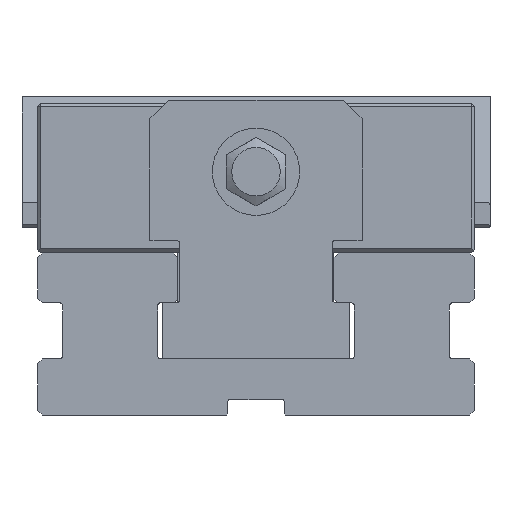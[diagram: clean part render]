
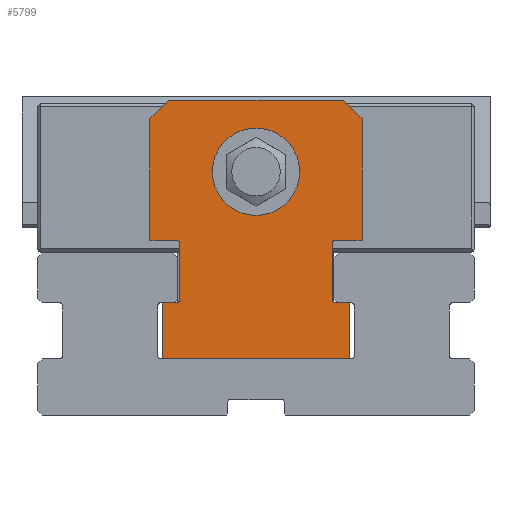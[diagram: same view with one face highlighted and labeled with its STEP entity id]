
A CAD part, front view. The second image highlights one B-rep face of the part: STEP entity #5799.
In plain terms, the highlighted planar face has unit normal (0, -1, 0).
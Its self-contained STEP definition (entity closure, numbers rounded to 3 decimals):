
#5586=CARTESIAN_POINT('',(0.,-343.49,64.006));
#5587=VERTEX_POINT('',#5586);
#5588=CARTESIAN_POINT('',(0.,-343.49,78.));
#5589=DIRECTION('',(0.0,-1.0,0.0));
#5590=DIRECTION('',(0.0,0.0,-1.0));
#5591=AXIS2_PLACEMENT_3D('',#5588,#5589,#5590);
#5592=CIRCLE('',#5591,13.994);
#5593=EDGE_CURVE('',#5587,#5587,#5592,.T.);
#5601=CARTESIAN_POINT('',(-37.4,-343.49,13.85));
#5602=DIRECTION('',(0.0,-1.0,0.0));
#5603=DIRECTION('',(1.0,0.0,0.0));
#5604=AXIS2_PLACEMENT_3D('',#5601,#5602,#5603);
#5605=PLANE('',#5604);
#5606=CARTESIAN_POINT('',(-25.117,-343.49,36.076));
#5607=VERTEX_POINT('',#5606);
#5608=CARTESIAN_POINT('',(-25.5,-343.49,36.));
#5609=VERTEX_POINT('',#5608);
#5610=CARTESIAN_POINT('',(-41.185,-343.49,32.88));
#5611=DIRECTION('',(-0.981,0.0,-0.195));
#5612=VECTOR('',#5611,1.);
#5613=LINE('',#5610,#5612);
#5614=EDGE_CURVE('',#5607,#5609,#5613,.T.);
#5615=ORIENTED_EDGE('',*,*,#5614,.T.);
#5616=CARTESIAN_POINT('',(-30.,-343.49,36.));
#5617=VERTEX_POINT('',#5616);
#5618=CARTESIAN_POINT('',(0.,-343.49,36.));
#5619=DIRECTION('',(-1.0,0.0,0.0));
#5620=VECTOR('',#5619,1.0);
#5621=LINE('',#5618,#5620);
#5622=EDGE_CURVE('',#5609,#5617,#5621,.T.);
#5623=ORIENTED_EDGE('',*,*,#5622,.T.);
#5624=CARTESIAN_POINT('',(-30.,-343.49,18.));
#5625=VERTEX_POINT('',#5624);
#5626=CARTESIAN_POINT('',(-30.,-343.49,59.5));
#5627=DIRECTION('',(0.0,0.0,-1.0));
#5628=VECTOR('',#5627,1.0);
#5629=LINE('',#5626,#5628);
#5630=EDGE_CURVE('',#5617,#5625,#5629,.T.);
#5631=ORIENTED_EDGE('',*,*,#5630,.T.);
#5632=CARTESIAN_POINT('',(30.,-343.49,18.));
#5633=VERTEX_POINT('',#5632);
#5634=CARTESIAN_POINT('',(0.,-343.49,18.));
#5635=DIRECTION('',(1.0,0.0,0.0));
#5636=VECTOR('',#5635,1.0);
#5637=LINE('',#5634,#5636);
#5638=EDGE_CURVE('',#5625,#5633,#5637,.T.);
#5639=ORIENTED_EDGE('',*,*,#5638,.T.);
#5640=CARTESIAN_POINT('',(30.,-343.49,36.));
#5641=VERTEX_POINT('',#5640);
#5642=CARTESIAN_POINT('',(30.,-343.49,59.5));
#5643=DIRECTION('',(0.0,0.0,1.0));
#5644=VECTOR('',#5643,1.0);
#5645=LINE('',#5642,#5644);
#5646=EDGE_CURVE('',#5633,#5641,#5645,.T.);
#5647=ORIENTED_EDGE('',*,*,#5646,.T.);
#5648=CARTESIAN_POINT('',(25.5,-343.49,36.));
#5649=VERTEX_POINT('',#5648);
#5650=CARTESIAN_POINT('',(0.,-343.49,36.));
#5651=DIRECTION('',(-1.0,0.0,0.0));
#5652=VECTOR('',#5651,1.0);
#5653=LINE('',#5650,#5652);
#5654=EDGE_CURVE('',#5641,#5649,#5653,.T.);
#5655=ORIENTED_EDGE('',*,*,#5654,.T.);
#5656=CARTESIAN_POINT('',(25.124,-343.49,36.074));
#5657=VERTEX_POINT('',#5656);
#5658=CARTESIAN_POINT('',(-30.922,-343.49,47.02));
#5659=DIRECTION('',(-0.981,0.0,0.192));
#5660=VECTOR('',#5659,1.);
#5661=LINE('',#5658,#5660);
#5662=EDGE_CURVE('',#5649,#5657,#5661,.T.);
#5663=ORIENTED_EDGE('',*,*,#5662,.T.);
#5664=CARTESIAN_POINT('',(24.796,-343.49,36.29));
#5665=VERTEX_POINT('',#5664);
#5666=CARTESIAN_POINT('',(-8.18,-343.49,58.077));
#5667=DIRECTION('',(-0.834,0.0,0.551));
#5668=VECTOR('',#5667,1.);
#5669=LINE('',#5666,#5668);
#5670=EDGE_CURVE('',#5657,#5665,#5669,.T.);
#5671=ORIENTED_EDGE('',*,*,#5670,.T.);
#5672=CARTESIAN_POINT('',(24.5,-343.49,37.009));
#5673=VERTEX_POINT('',#5672);
#5674=CARTESIAN_POINT('',(25.521,-343.49,37.009));
#5675=DIRECTION('',(0.0,-1.0,0.0));
#5676=DIRECTION('',(0.0,0.0,-1.0));
#5677=AXIS2_PLACEMENT_3D('',#5674,#5675,#5676);
#5678=CIRCLE('',#5677,1.021);
#5679=EDGE_CURVE('',#5665,#5673,#5678,.F.);
#5680=ORIENTED_EDGE('',*,*,#5679,.T.);
#5681=CARTESIAN_POINT('',(24.5,-343.49,55.));
#5682=VERTEX_POINT('',#5681);
#5683=CARTESIAN_POINT('',(24.5,-343.49,59.5));
#5684=DIRECTION('',(0.0,0.0,1.0));
#5685=VECTOR('',#5684,1.0);
#5686=LINE('',#5683,#5685);
#5687=EDGE_CURVE('',#5673,#5682,#5686,.T.);
#5688=ORIENTED_EDGE('',*,*,#5687,.T.);
#5689=CARTESIAN_POINT('',(25.5,-343.49,56.));
#5690=VERTEX_POINT('',#5689);
#5691=CARTESIAN_POINT('',(25.5,-343.49,55.));
#5692=DIRECTION('',(0.0,-1.0,0.0));
#5693=DIRECTION('',(0.0,0.0,-1.0));
#5694=AXIS2_PLACEMENT_3D('',#5691,#5692,#5693);
#5695=CIRCLE('',#5694,1.);
#5696=EDGE_CURVE('',#5682,#5690,#5695,.F.);
#5697=ORIENTED_EDGE('',*,*,#5696,.T.);
#5698=CARTESIAN_POINT('',(34.,-343.49,56.));
#5699=VERTEX_POINT('',#5698);
#5700=CARTESIAN_POINT('',(-37.4,-343.49,56.));
#5701=DIRECTION('',(1.,0.0,0.));
#5702=VECTOR('',#5701,1.);
#5703=LINE('',#5700,#5702);
#5704=EDGE_CURVE('',#5690,#5699,#5703,.T.);
#5705=ORIENTED_EDGE('',*,*,#5704,.T.);
#5706=CARTESIAN_POINT('',(34.,-343.49,95.));
#5707=VERTEX_POINT('',#5706);
#5708=CARTESIAN_POINT('',(34.,-343.49,59.5));
#5709=DIRECTION('',(0.0,0.0,1.0));
#5710=VECTOR('',#5709,1.0);
#5711=LINE('',#5708,#5710);
#5712=EDGE_CURVE('',#5699,#5707,#5711,.T.);
#5713=ORIENTED_EDGE('',*,*,#5712,.T.);
#5714=CARTESIAN_POINT('',(28.,-343.49,101.));
#5715=VERTEX_POINT('',#5714);
#5716=CARTESIAN_POINT('',(38.875,-343.49,90.125));
#5717=DIRECTION('',(-0.707,0.0,0.707));
#5718=VECTOR('',#5717,1.);
#5719=LINE('',#5716,#5718);
#5720=EDGE_CURVE('',#5707,#5715,#5719,.T.);
#5721=ORIENTED_EDGE('',*,*,#5720,.T.);
#5722=CARTESIAN_POINT('',(-28.,-343.49,101.));
#5723=VERTEX_POINT('',#5722);
#5724=CARTESIAN_POINT('',(0.,-343.49,101.));
#5725=DIRECTION('',(-1.0,0.0,0.0));
#5726=VECTOR('',#5725,1.0);
#5727=LINE('',#5724,#5726);
#5728=EDGE_CURVE('',#5715,#5723,#5727,.T.);
#5729=ORIENTED_EDGE('',*,*,#5728,.T.);
#5730=CARTESIAN_POINT('',(-34.,-343.49,95.));
#5731=VERTEX_POINT('',#5730);
#5732=CARTESIAN_POINT('',(-76.275,-343.49,52.725));
#5733=DIRECTION('',(-0.707,0.0,-0.707));
#5734=VECTOR('',#5733,1.);
#5735=LINE('',#5732,#5734);
#5736=EDGE_CURVE('',#5723,#5731,#5735,.T.);
#5737=ORIENTED_EDGE('',*,*,#5736,.T.);
#5738=CARTESIAN_POINT('',(-34.,-343.49,56.));
#5739=VERTEX_POINT('',#5738);
#5740=CARTESIAN_POINT('',(-34.,-343.49,59.5));
#5741=DIRECTION('',(0.0,0.0,-1.0));
#5742=VECTOR('',#5741,1.0);
#5743=LINE('',#5740,#5742);
#5744=EDGE_CURVE('',#5731,#5739,#5743,.T.);
#5745=ORIENTED_EDGE('',*,*,#5744,.T.);
#5746=CARTESIAN_POINT('',(-25.498,-343.49,56.));
#5747=VERTEX_POINT('',#5746);
#5748=CARTESIAN_POINT('',(-37.4,-343.49,56.));
#5749=DIRECTION('',(1.,0.0,0.));
#5750=VECTOR('',#5749,1.);
#5751=LINE('',#5748,#5750);
#5752=EDGE_CURVE('',#5739,#5747,#5751,.T.);
#5753=ORIENTED_EDGE('',*,*,#5752,.T.);
#5754=CARTESIAN_POINT('',(-25.117,-343.49,55.924));
#5755=VERTEX_POINT('',#5754);
#5756=CARTESIAN_POINT('',(-28.882,-343.49,56.673));
#5757=DIRECTION('',(0.981,0.0,-0.195));
#5758=VECTOR('',#5757,1.);
#5759=LINE('',#5756,#5758);
#5760=EDGE_CURVE('',#5747,#5755,#5759,.T.);
#5761=ORIENTED_EDGE('',*,*,#5760,.T.);
#5762=CARTESIAN_POINT('',(-24.793,-343.49,55.707));
#5763=VERTEX_POINT('',#5762);
#5764=CARTESIAN_POINT('',(-14.173,-343.49,48.611));
#5765=DIRECTION('',(0.831,0.0,-0.556));
#5766=VECTOR('',#5765,1.);
#5767=LINE('',#5764,#5766);
#5768=EDGE_CURVE('',#5755,#5763,#5767,.T.);
#5769=ORIENTED_EDGE('',*,*,#5768,.T.);
#5770=CARTESIAN_POINT('',(-24.5,-343.49,55.));
#5771=VERTEX_POINT('',#5770);
#5772=CARTESIAN_POINT('',(-25.5,-343.49,55.));
#5773=DIRECTION('',(0.0,-1.0,0.0));
#5774=DIRECTION('',(0.0,0.0,-1.0));
#5775=AXIS2_PLACEMENT_3D('',#5772,#5773,#5774);
#5776=CIRCLE('',#5775,1.);
#5777=EDGE_CURVE('',#5763,#5771,#5776,.F.);
#5778=ORIENTED_EDGE('',*,*,#5777,.T.);
#5779=CARTESIAN_POINT('',(-24.5,-343.49,37.));
#5780=VERTEX_POINT('',#5779);
#5781=CARTESIAN_POINT('',(-24.5,-343.49,59.5));
#5782=DIRECTION('',(0.0,0.0,-1.0));
#5783=VECTOR('',#5782,1.0);
#5784=LINE('',#5781,#5783);
#5785=EDGE_CURVE('',#5771,#5780,#5784,.T.);
#5786=ORIENTED_EDGE('',*,*,#5785,.T.);
#5787=CARTESIAN_POINT('',(-25.5,-343.49,37.));
#5788=DIRECTION('',(0.0,-1.0,0.0));
#5789=DIRECTION('',(0.0,0.0,-1.0));
#5790=AXIS2_PLACEMENT_3D('',#5787,#5788,#5789);
#5791=CIRCLE('',#5790,1.);
#5792=EDGE_CURVE('',#5780,#5607,#5791,.F.);
#5793=ORIENTED_EDGE('',*,*,#5792,.T.);
#5794=EDGE_LOOP('',(#5615,#5623,#5631,#5639,#5647,#5655,#5663,#5671,#5680,#5688,#5697,#5705,#5713,#5721,#5729,#5737,#5745,#5753,#5761,#5769,#5778,#5786,#5793));
#5795=FACE_OUTER_BOUND('',#5794,.T.);
#5796=ORIENTED_EDGE('',*,*,#5593,.F.);
#5797=EDGE_LOOP('',(#5796));
#5798=FACE_BOUND('',#5797,.T.);
#5799=ADVANCED_FACE('',(#5795,#5798),#5605,.T.);
